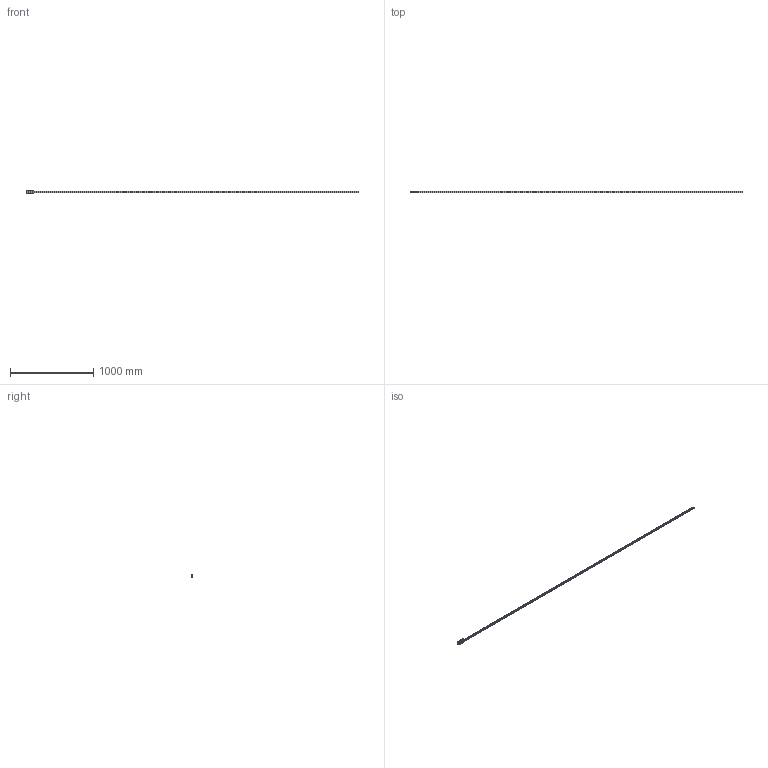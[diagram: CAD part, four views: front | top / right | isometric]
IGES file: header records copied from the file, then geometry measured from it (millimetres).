
Start section: Data from Parasolid IGES Translator 20.0.26, Copyright(c) 2006 Siemens P LM Software. All Rights Reserved.
Global section: file name: FDB15 84396L_4000-0.igs; native system: By Siemens PLM Incorporated; preprocessor: XPlus GENERIC/IGES 20.0.26; author: Noname; organization: Noname; date: 20220622.044903; units: millimetre
Bounding box: 4000 x 24 x 47 mm (x, y, z)
Surface area: 345503.1 mm2 (no closed solid volume)
Topology: 0 solids, 0 shells, 760 faces, 3888 edges, 3691 vertices
Faces by surface type: extrusion 391, revolution 369
